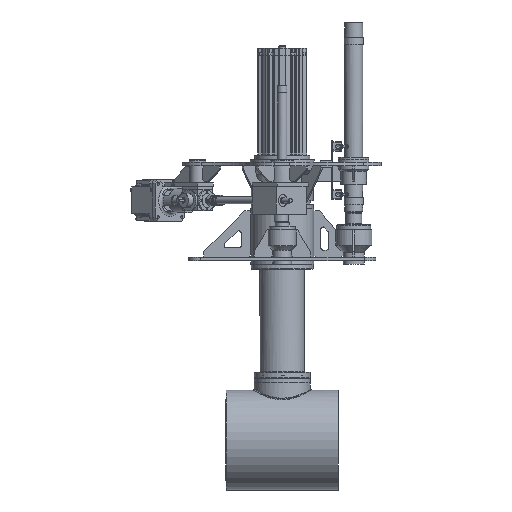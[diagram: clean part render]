
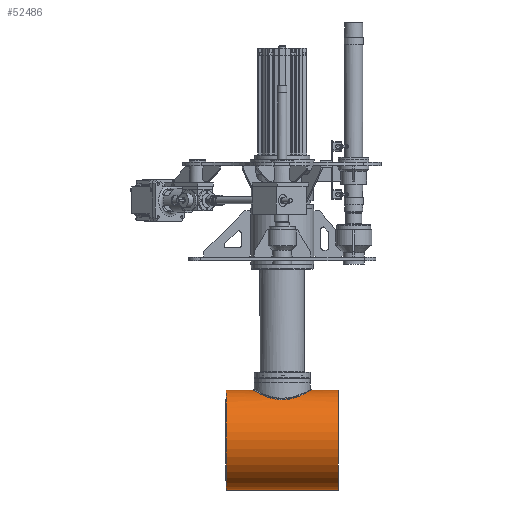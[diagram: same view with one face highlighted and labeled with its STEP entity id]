
A CAD part, front view. The second image highlights one B-rep face of the part: STEP entity #52486.
In plain terms, the highlighted cylindrical face has radius 212.725 mm (diameter 425.45 mm), a full revolution.
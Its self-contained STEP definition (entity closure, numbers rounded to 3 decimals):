
#799=B_SPLINE_CURVE_WITH_KNOTS('',3,(#89325,#89326,#89327,#89328,#89329,
#89330,#89331,#89332,#89333,#89334,#89335,#89336,#89337,#89338,#89339,#89340,
#89341,#89342),.UNSPECIFIED.,.F.,.F.,(4,2,2,2,2,2,2,2,4),(0.,2.411,
4.822,7.233,9.644,12.042,14.439,
16.837,19.234),.UNSPECIFIED.);
#800=B_SPLINE_CURVE_WITH_KNOTS('',3,(#89344,#89345,#89346,#89347,#89348,
#89349,#89350,#89351,#89352,#89353,#89354,#89355,#89356,#89357,#89358,#89359,
#89360,#89361),.UNSPECIFIED.,.F.,.F.,(4,2,2,2,2,2,2,2,4),(19.234,
21.632,24.029,26.427,28.824,31.235,
33.646,36.057,38.468),.UNSPECIFIED.);
#801=B_SPLINE_CURVE_WITH_KNOTS('',3,(#89363,#89364,#89365,#89366,#89367,
#89368,#89369,#89370,#89371,#89372,#89373,#89374,#89375,#89376,#89377,#89378,
#89379,#89380),.UNSPECIFIED.,.F.,.F.,(4,2,2,2,2,2,2,2,4),(38.468,
40.879,43.29,45.701,48.112,50.51,
52.907,55.305,57.702),.UNSPECIFIED.);
#802=B_SPLINE_CURVE_WITH_KNOTS('',3,(#89381,#89382,#89383,#89384,#89385,
#89386,#89387,#89388,#89389,#89390,#89391,#89392,#89393,#89394,#89395,#89396,
#89397,#89398),.UNSPECIFIED.,.F.,.F.,(4,2,2,2,2,2,2,2,4),(57.702,
60.1,62.497,64.895,67.292,69.703,
72.114,74.525,76.936),.UNSPECIFIED.);
#1519=FACE_BOUND('',#8275,.T.);
#5012=FACE_OUTER_BOUND('',#8274,.T.);
#8274=EDGE_LOOP('',(#42707,#42708,#42709,#42710));
#8275=EDGE_LOOP('',(#42711,#42712,#42713,#42714));
#11955=LINE('',#89671,#15882);
#15882=VECTOR('',#69752,212.725);
#19045=CIRCLE('',#57324,212.725);
#19048=CIRCLE('',#57328,212.725);
#23329=VERTEX_POINT('',#89322);
#23330=VERTEX_POINT('',#89324);
#23331=VERTEX_POINT('',#89343);
#23332=VERTEX_POINT('',#89362);
#23337=VERTEX_POINT('',#89578);
#23340=VERTEX_POINT('',#89585);
#30016=EDGE_CURVE('',#23329,#23330,#799,.T.);
#30017=EDGE_CURVE('',#23330,#23331,#800,.T.);
#30018=EDGE_CURVE('',#23331,#23332,#801,.T.);
#30019=EDGE_CURVE('',#23332,#23329,#802,.T.);
#30026=EDGE_CURVE('',#23337,#23337,#19045,.T.);
#30029=EDGE_CURVE('',#23340,#23340,#19048,.T.);
#30038=EDGE_CURVE('',#23337,#23340,#11955,.T.);
#42707=ORIENTED_EDGE('',*,*,#30026,.T.);
#42708=ORIENTED_EDGE('',*,*,#30038,.T.);
#42709=ORIENTED_EDGE('',*,*,#30029,.T.);
#42710=ORIENTED_EDGE('',*,*,#30038,.F.);
#42711=ORIENTED_EDGE('',*,*,#30018,.F.);
#42712=ORIENTED_EDGE('',*,*,#30017,.F.);
#42713=ORIENTED_EDGE('',*,*,#30016,.F.);
#42714=ORIENTED_EDGE('',*,*,#30019,.F.);
#47478=CYLINDRICAL_SURFACE('',#57332,212.725);
#52486=ADVANCED_FACE('',(#5012,#1519),#47478,.T.);
#57324=AXIS2_PLACEMENT_3D('',#89579,#69731,#69732);
#57328=AXIS2_PLACEMENT_3D('',#89586,#69739,#69740);
#57332=AXIS2_PLACEMENT_3D('',#89670,#69750,#69751);
#69731=DIRECTION('center_axis',(-1.,0.,
0.));
#69732=DIRECTION('ref_axis',(0.,0.,
1.));
#69739=DIRECTION('center_axis',(1.,0.,
0.));
#69740=DIRECTION('ref_axis',(0.,0.,
1.));
#69750=DIRECTION('center_axis',(1.,0.,
0.));
#69751=DIRECTION('ref_axis',(0.,0.,
1.));
#69752=DIRECTION('',(-1.,0.,0.));
#89322=CARTESIAN_POINT('',(-0.049,124.,-592.153));
#89324=CARTESIAN_POINT('',(-124.,-0.049,-552.275));
#89325=CARTESIAN_POINT('Ctrl Pts',(-0.049,124.,
-592.153));
#89326=CARTESIAN_POINT('Ctrl Pts',(-8.086,123.997,-592.153));
#89327=CARTESIAN_POINT('Ctrl Pts',(-16.303,123.2,-591.576));
#89328=CARTESIAN_POINT('Ctrl Pts',(-32.489,119.953,-589.318));
#89329=CARTESIAN_POINT('Ctrl Pts',(-40.459,117.503,-587.643));
#89330=CARTESIAN_POINT('Ctrl Pts',(-55.639,111.122,-583.58));
#89331=CARTESIAN_POINT('Ctrl Pts',(-62.865,107.186,-581.195));
#89332=CARTESIAN_POINT('Ctrl Pts',(-76.198,98.156,-576.22));
#89333=CARTESIAN_POINT('Ctrl Pts',(-82.305,93.061,-573.635));
#89334=CARTESIAN_POINT('Ctrl Pts',(-93.096,82.262,-568.751));
#89335=CARTESIAN_POINT('Ctrl Pts',(-98.181,76.166,-566.268));
#89336=CARTESIAN_POINT('Ctrl Pts',(-107.212,62.822,-561.653));
#89337=CARTESIAN_POINT('Ctrl Pts',(-111.157,55.573,-559.525));
#89338=CARTESIAN_POINT('Ctrl Pts',(-117.544,40.343,-555.998));
#89339=CARTESIAN_POINT('Ctrl Pts',(-119.991,32.347,-554.598));
#89340=CARTESIAN_POINT('Ctrl Pts',(-123.221,16.147,-552.736));
#89341=CARTESIAN_POINT('Ctrl Pts',(-124.003,7.943,-552.275));
#89342=CARTESIAN_POINT('Ctrl Pts',(-124.,-0.049,
-552.275));
#89343=CARTESIAN_POINT('',(0.049,-124.,-592.153));
#89344=CARTESIAN_POINT('Ctrl Pts',(-124.,-0.049,
-552.275));
#89345=CARTESIAN_POINT('Ctrl Pts',(-123.997,-8.041,
-552.275));
#89346=CARTESIAN_POINT('Ctrl Pts',(-123.209,-16.244,
-552.736));
#89347=CARTESIAN_POINT('Ctrl Pts',(-119.966,-32.442,-554.598));
#89348=CARTESIAN_POINT('Ctrl Pts',(-117.512,-40.436,
-555.998));
#89349=CARTESIAN_POINT('Ctrl Pts',(-111.113,-55.66,
-559.525));
#89350=CARTESIAN_POINT('Ctrl Pts',(-107.162,-62.907,
-561.653));
#89351=CARTESIAN_POINT('Ctrl Pts',(-98.121,-76.244,
-566.268));
#89352=CARTESIAN_POINT('Ctrl Pts',(-93.031,-82.336,
-568.751));
#89353=CARTESIAN_POINT('Ctrl Pts',(-82.232,-93.126,
-573.635));
#89354=CARTESIAN_POINT('Ctrl Pts',(-76.12,-98.217,-576.22));
#89355=CARTESIAN_POINT('Ctrl Pts',(-62.781,-107.235,
-581.195));
#89356=CARTESIAN_POINT('Ctrl Pts',(-55.552,-111.166,
-583.58));
#89357=CARTESIAN_POINT('Ctrl Pts',(-40.366,-117.535,
-587.643));
#89358=CARTESIAN_POINT('Ctrl Pts',(-32.394,-119.978,
-589.318));
#89359=CARTESIAN_POINT('Ctrl Pts',(-16.205,-123.213,
-591.576));
#89360=CARTESIAN_POINT('Ctrl Pts',(-7.988,-124.003,
-592.153));
#89361=CARTESIAN_POINT('Ctrl Pts',(0.049,-124.,
-592.153));
#89362=CARTESIAN_POINT('',(124.,0.049,-552.275));
#89363=CARTESIAN_POINT('Ctrl Pts',(0.049,-124.,
-592.153));
#89364=CARTESIAN_POINT('Ctrl Pts',(8.086,-123.997,-592.153));
#89365=CARTESIAN_POINT('Ctrl Pts',(16.303,-123.2,-591.576));
#89366=CARTESIAN_POINT('Ctrl Pts',(32.489,-119.953,-589.318));
#89367=CARTESIAN_POINT('Ctrl Pts',(40.459,-117.503,-587.643));
#89368=CARTESIAN_POINT('Ctrl Pts',(55.639,-111.122,-583.58));
#89369=CARTESIAN_POINT('Ctrl Pts',(62.865,-107.186,-581.195));
#89370=CARTESIAN_POINT('Ctrl Pts',(76.198,-98.156,-576.22));
#89371=CARTESIAN_POINT('Ctrl Pts',(82.305,-93.061,-573.635));
#89372=CARTESIAN_POINT('Ctrl Pts',(93.096,-82.262,-568.751));
#89373=CARTESIAN_POINT('Ctrl Pts',(98.181,-76.166,-566.268));
#89374=CARTESIAN_POINT('Ctrl Pts',(107.212,-62.822,-561.653));
#89375=CARTESIAN_POINT('Ctrl Pts',(111.157,-55.573,-559.525));
#89376=CARTESIAN_POINT('Ctrl Pts',(117.544,-40.343,-555.998));
#89377=CARTESIAN_POINT('Ctrl Pts',(119.991,-32.347,-554.598));
#89378=CARTESIAN_POINT('Ctrl Pts',(123.221,-16.147,-552.736));
#89379=CARTESIAN_POINT('Ctrl Pts',(124.003,-7.943,-552.275));
#89380=CARTESIAN_POINT('Ctrl Pts',(124.,0.049,-552.275));
#89381=CARTESIAN_POINT('Ctrl Pts',(124.,0.049,-552.275));
#89382=CARTESIAN_POINT('Ctrl Pts',(123.997,8.041,-552.275));
#89383=CARTESIAN_POINT('Ctrl Pts',(123.209,16.244,-552.736));
#89384=CARTESIAN_POINT('Ctrl Pts',(119.966,32.442,-554.598));
#89385=CARTESIAN_POINT('Ctrl Pts',(117.512,40.436,-555.998));
#89386=CARTESIAN_POINT('Ctrl Pts',(111.113,55.66,-559.525));
#89387=CARTESIAN_POINT('Ctrl Pts',(107.162,62.907,-561.653));
#89388=CARTESIAN_POINT('Ctrl Pts',(98.121,76.244,-566.268));
#89389=CARTESIAN_POINT('Ctrl Pts',(93.031,82.336,-568.751));
#89390=CARTESIAN_POINT('Ctrl Pts',(82.232,93.126,-573.635));
#89391=CARTESIAN_POINT('Ctrl Pts',(76.12,98.217,-576.22));
#89392=CARTESIAN_POINT('Ctrl Pts',(62.781,107.235,-581.195));
#89393=CARTESIAN_POINT('Ctrl Pts',(55.552,111.166,-583.58));
#89394=CARTESIAN_POINT('Ctrl Pts',(40.366,117.535,-587.643));
#89395=CARTESIAN_POINT('Ctrl Pts',(32.394,119.978,-589.318));
#89396=CARTESIAN_POINT('Ctrl Pts',(16.205,123.213,-591.576));
#89397=CARTESIAN_POINT('Ctrl Pts',(7.988,124.003,-592.153));
#89398=CARTESIAN_POINT('Ctrl Pts',(-0.049,124.,-592.153));
#89578=CARTESIAN_POINT('',(240.,0.095,-977.725));
#89579=CARTESIAN_POINT('Origin',(240.,0.095,-765.));
#89585=CARTESIAN_POINT('',(-240.,-0.095,-977.725));
#89586=CARTESIAN_POINT('Origin',(-240.,-0.095,
-765.));
#89670=CARTESIAN_POINT('Origin',(0.,0.,
-765.));
#89671=CARTESIAN_POINT('',(0.,0.,-977.725));
